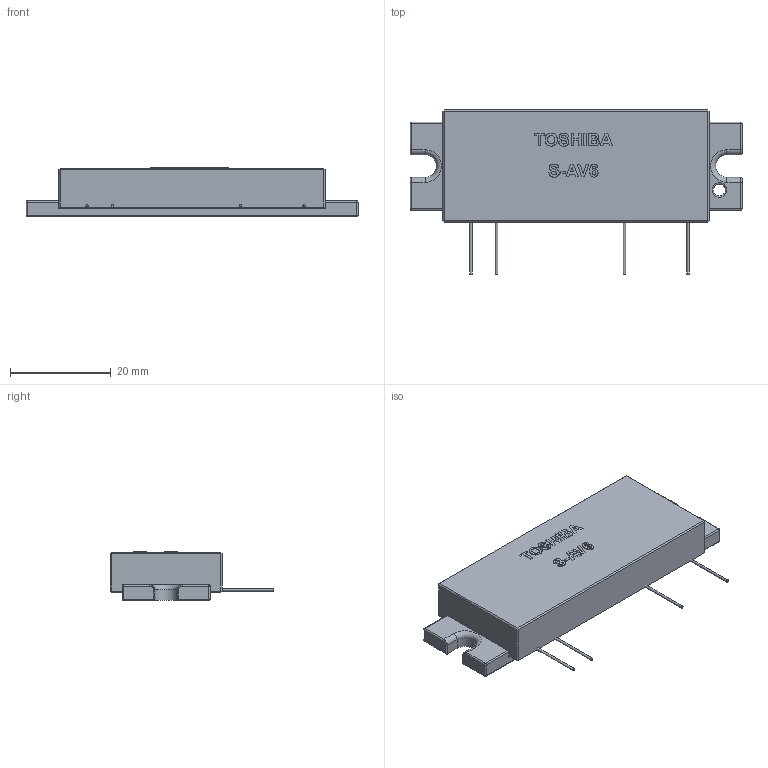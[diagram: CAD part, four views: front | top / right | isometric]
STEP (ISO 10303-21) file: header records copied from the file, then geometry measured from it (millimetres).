
FILE_DESCRIPTION(/* description */ (''),/* implementation_level */ '2;1');
FILE_NAME(/* name */ 'S-AV6 3D Model v4.step',/* time_stamp */ '2024-04-18T17:19:20+03:00',/* author */ (''),/* organization */ (''),/* preprocessor_version */ 'ST-DEVELOPER v20',/* originating_system */ 'Autodesk Translation Framework v12.20.1.177',/* authorisation */ '');
FILE_SCHEMA (('AUTOMOTIVE_DESIGN { 1 0 10303 214 3 1 1 }'));
Length unit declared in the file: millimetre
Products named in the file (4): S-AV6 3D Model; Component2; Component3; Component4
Assembly tree (3 placements, depth 2):
  S-AV6 3D Model
    Component2
    Component3
    Component4
Bounding box: 66 x 32.6 x 9.7 mm (x, y, z)
Volume: 11475.7 mm3; surface area: 6333.1 mm2
Topology: 18 solids, 18 shells, 314 faces, 770 edges, 492 vertices
Faces by surface type: plane 145, bspline 121, cylinder 33, sphere 8, torus 7
Full cylindrical faces by diameter (mm): 0.5 x4, 2.4 x1
Entity records: 10394 total; most frequent: CARTESIAN_POINT 3640, ORIENTED_EDGE 1540, DIRECTION 999, EDGE_CURVE 770, VERTEX_POINT 492, LINE 457, VECTOR 457, EDGE_LOOP 328
